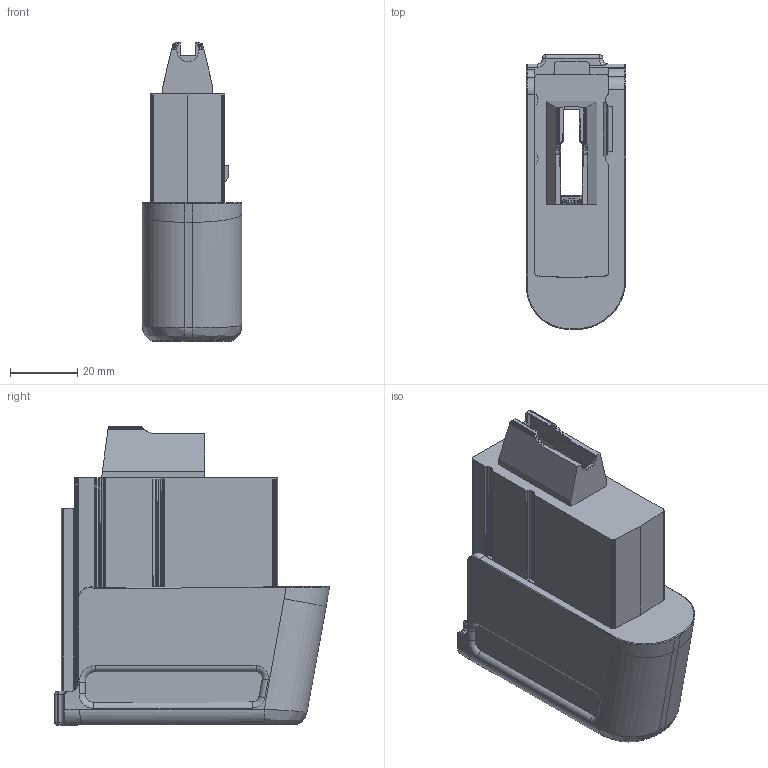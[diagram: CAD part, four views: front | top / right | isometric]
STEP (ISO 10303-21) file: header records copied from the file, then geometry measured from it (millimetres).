
FILE_DESCRIPTION(/* description */ (''),/* implementation_level */ '2;1');
FILE_NAME(/* name */ 'C:/Users/jeremy/OneDrive/Desktop/SpaceGat 22 Release/SG22 Short Magazine.step',/* time_stamp */ '2021-01-18T14:17:04-07:00',/* author */ (''),/* organization */ (''),/* preprocessor_version */ 'ST-DEVELOPER v18.1',/* originating_system */ 'Autodesk Translation Framework v9.7.1.1290',/* authorisation */ '');
FILE_SCHEMA (('AUTOMOTIVE_DESIGN { 1 0 10303 214 3 1 1 }'));
Length unit declared in the file: inch
Products named in the file (1): Space Gun Beta Ready
Bounding box: 29.62 x 81.84 x 88.76 mm (x, y, z)
Volume: 96580.9 mm3; surface area: 30684.9 mm2
Topology: 1 solids, 6 shells, 2207 faces, 4250 edges, 2055 vertices
Faces by surface type: plane 2121, cylinder 52, torus 19, bspline 13, sphere 2
Entity records: 52316 total; most frequent: CARTESIAN_POINT 9200, DIRECTION 8737, ORIENTED_EDGE 8500, EDGE_CURVE 4250, LINE 4093, VECTOR 4093, AXIS2_PLACEMENT_3D 2322, EDGE_LOOP 2213
